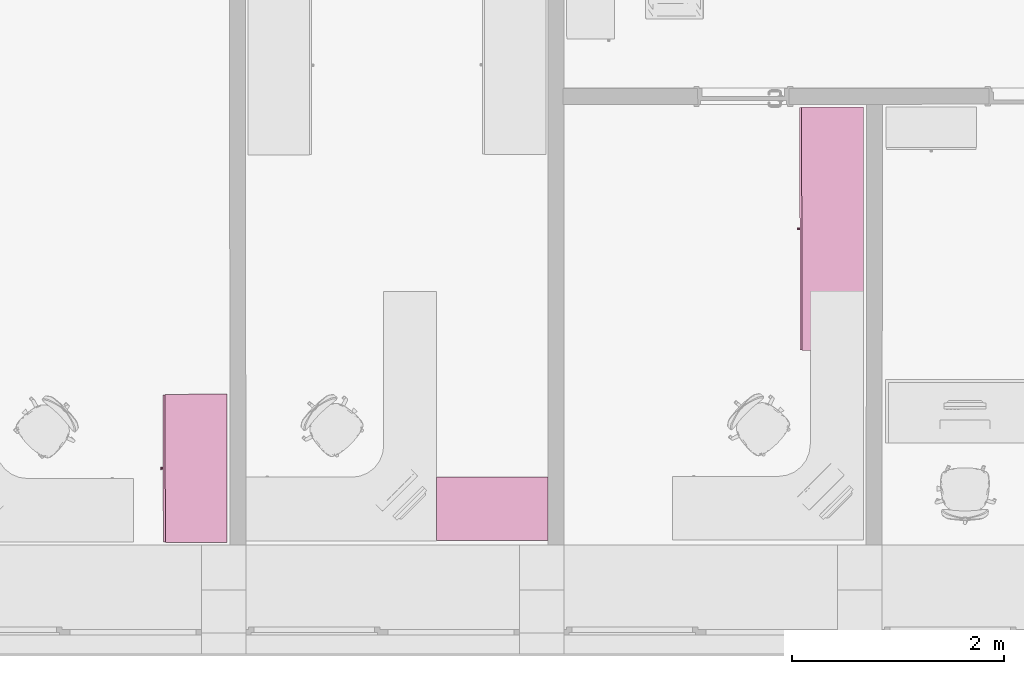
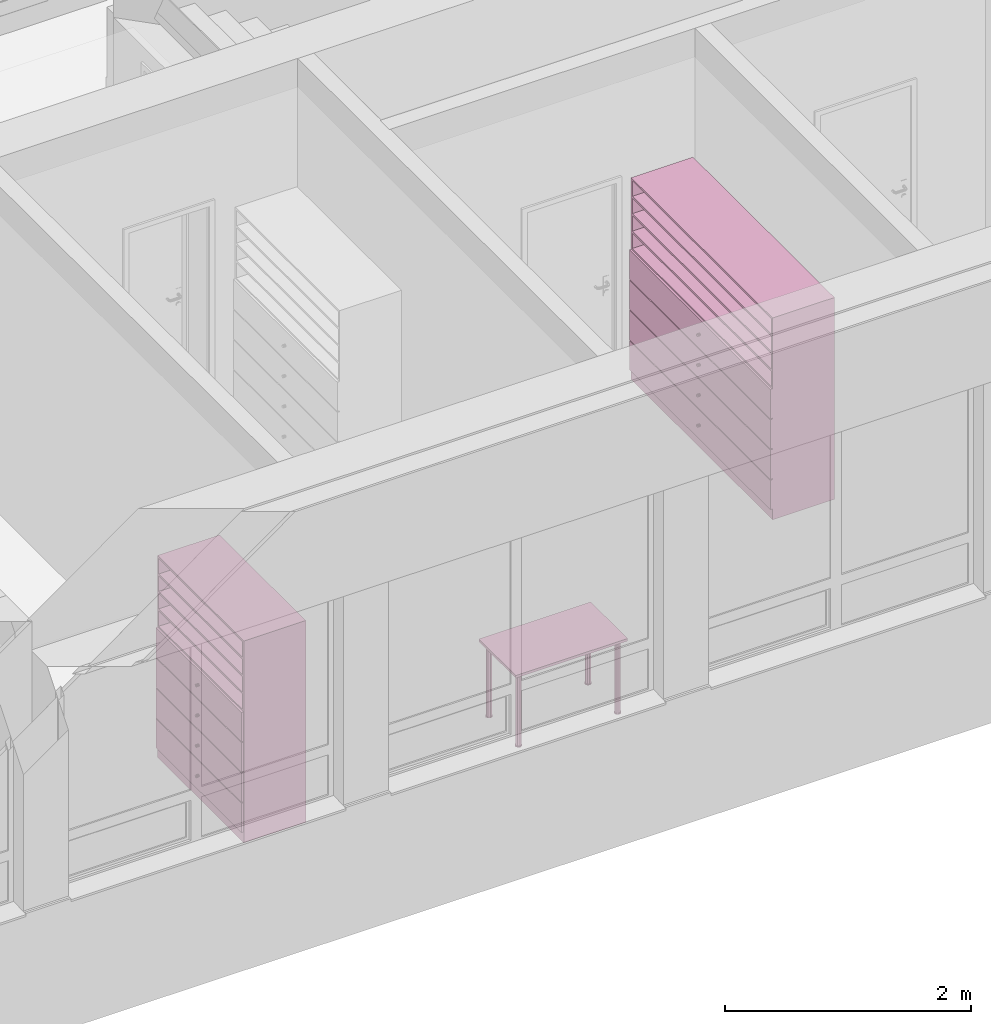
# One storey, part 173 of 194: 3 furnishings.
"""IFC2X3 building model written with IfcOpenShell, lengths in millimetres."""

import ifcopenshell
import ifcopenshell.guid

model = None  # the IFC model being written
_history = None  # IfcOwnerHistory: only IFC2X3 demands one
_inside = {}  # id of a spatial element -> (the spatial element, [elements in it])
_under = {}  # id of a project, library or spatial element -> (it, [spatial elements below it])
_declared = {}  # id of a project -> (the project, [libraries it declares])
_typed = {}  # id of a type object -> (the type object, [elements of that type])
_made_of = {}  # id of a material, layer set ... -> (it, [elements and type objects made of it])


def new_model(schema):
    """Start an empty IFC model of exactly this schema.

    Asked for "IFC4X3", IfcOpenShell would pick the latest addendum, in which some entities
    have other attributes; the version numbers below select the first issue.
    IFC2X3 requires an IfcOwnerHistory on every rooted entity: one is made here for all.
    """
    global model, _history
    if schema == "IFC4X3":
        model = ifcopenshell.file(schema_version=(4, 3, 0, 0))
    else:
        model = ifcopenshell.file(schema=schema)
    _inside.clear()
    _under.clear()
    _declared.clear()
    _typed.clear()
    _made_of.clear()
    _history = None
    if model.schema == "IFC2X3":
        org = make("IfcOrganization", Name="unknown")
        user = make(
            "IfcPersonAndOrganization",
            ThePerson=make("IfcPerson", FamilyName="unknown"),
            TheOrganization=org,
        )
        app = make(
            "IfcApplication",
            ApplicationDeveloper=org,
            Version="unknown",
            ApplicationFullName="unknown",
            ApplicationIdentifier="unknown",
        )
        _history = make(
            "IfcOwnerHistory",
            OwningUser=user,
            OwningApplication=app,
            ChangeAction="ADDED",
            CreationDate=0,
        )
    return model


def make(cls, **values):
    """One entity of the class cls with the attributes given. An attribute that is None is left unset."""
    return model.create_entity(
        cls, **{name: value for name, value in values.items() if value is not None}
    )


def entity(cls, *values):
    """Any entity or typed value of the class cls, its attributes in the order of the schema. None: left unset."""
    e = model.create_entity(cls)
    for i, value in enumerate(values):
        if value is not None:
            e[i] = value
    return e


def rooted(cls, **values):
    """An entity with a GlobalId (a new one), such as an element, a storey or a relation."""
    return make(cls, GlobalId=ifcopenshell.guid.new(), OwnerHistory=_history, **values)


def si_unit(unit_type, name, prefix=None):
    """IfcSIUnit, for example si_unit("LENGTHUNIT", "METRE", prefix="MILLI")."""
    return make("IfcSIUnit", UnitType=unit_type, Prefix=prefix, Name=name)


def converted_unit(unit_type, name, factor, base, dimensions=None, offset=None):
    """IfcConversionBasedUnit, such as the inch: factor (a typed value) times the base unit."""
    return make(
        "IfcConversionBasedUnit"
        if offset is None
        else "IfcConversionBasedUnitWithOffset",
        ConversionOffset=offset,
        Dimensions=None
        if dimensions is None
        else entity("IfcDimensionalExponents", *dimensions),
        UnitType=unit_type,
        Name=name,
        ConversionFactor=make(
            "IfcMeasureWithUnit", ValueComponent=factor, UnitComponent=base
        ),
    )


def derived_unit(unit_type, elements):
    """IfcDerivedUnit: a product of units, each with its exponent."""
    return make(
        "IfcDerivedUnit",
        Elements=[
            make("IfcDerivedUnitElement", Unit=unit, Exponent=power)
            for unit, power in elements
        ],
        UnitType=unit_type,
    )


def money_unit(currency):
    """IfcMonetaryUnit."""
    return make("IfcMonetaryUnit", Currency=currency)


def assignment(units):
    """IfcUnitAssignment: the units of a project."""
    return None if units is None else make("IfcUnitAssignment", Units=units)


def point(xyz):
    """IfcCartesianPoint."""
    return None if xyz is None else make("IfcCartesianPoint", Coordinates=xyz)


def direction(xyz):
    """IfcDirection."""
    return None if xyz is None else make("IfcDirection", DirectionRatios=xyz)


def frame(location, z_axis=None, x_axis=None):
    """IfcAxis2Placement3D, a coordinate frame: its origin and axes. An axis left out is left unset."""
    return make(
        "IfcAxis2Placement3D",
        Location=point(location),
        Axis=direction(z_axis),
        RefDirection=direction(x_axis),
    )


def origin_with_axes():
    """The frame at (0, 0, 0) with the z axis (0, 0, 1) and the x axis (1, 0, 0) written out."""
    return frame((0.0, 0.0, 0.0), z_axis=(0.0, 0.0, 1.0), x_axis=(1.0, 0.0, 0.0))


def place(relative_to, where):
    """IfcLocalPlacement: puts the frame where relative to a parent placement (None: the world)."""
    return make(
        "IfcLocalPlacement", PlacementRelTo=relative_to, RelativePlacement=where
    )


def context(
    kind, dimensions, precision=None, world=None, true_north=None, identifier=None
):
    """IfcGeometricRepresentationContext, for example the 3D "Model" context."""
    return make(
        "IfcGeometricRepresentationContext",
        ContextIdentifier=identifier,
        ContextType=kind,
        CoordinateSpaceDimension=dimensions,
        Precision=precision,
        WorldCoordinateSystem=world,
        TrueNorth=true_north,
    )


def subcontext(parent, identifier, kind, view, scale=None):
    """IfcGeometricRepresentationSubContext, for example "Body" below "Model"."""
    return make(
        "IfcGeometricRepresentationSubContext",
        ContextIdentifier=identifier,
        ContextType=kind,
        ParentContext=parent,
        TargetScale=scale,
        TargetView=view,
    )


def project(units=None, contexts=None):
    """IfcProject with its units and contexts."""
    return rooted(
        "IfcProject",
        Name="project",
        RepresentationContexts=contexts,
        UnitsInContext=assignment(units),
    )


def spatial(cls, under=None, at=None, **own):
    """A site, building, storey or space (cls), placed at a placement, below another one or the project."""
    s = rooted(cls, ObjectPlacement=at, **own)
    if under is not None:
        _under.setdefault(under.id(), (under, []))[1].append(s)
    return s


def faces_of(points, faces, orient=None, outer=None):
    """IfcFace entities. A face is a list of loops; a loop is a list of indices into points, from 0.

    orient and outer hold one flag for each loop. By default every Orientation is true, the
    first loop of a face is its IfcFaceOuterBound and the others are IfcFaceBound.
    """
    made = []
    for i, loops in enumerate(faces):
        bounds = []
        for j, loop in enumerate(loops):
            is_outer = j == 0 if outer is None else outer[i][j]
            bounds.append(
                make(
                    "IfcFaceOuterBound" if is_outer else "IfcFaceBound",
                    Bound=make("IfcPolyLoop", Polygon=[points[k] for k in loop]),
                    Orientation=True if orient is None else orient[i][j],
                )
            )
        made.append(make("IfcFace", Bounds=bounds))
    return made


def faceted_brep(points, faces, orient=None, outer=None, voids=None):
    """IfcFacetedBrep: a solid bounded by flat faces; with voids (closed shells), ...WithVoids."""
    shared = [point(p) for p in points]
    hull = make("IfcClosedShell", CfsFaces=faces_of(shared, faces, orient, outer))
    if voids is None:
        return make("IfcFacetedBrep", Outer=hull)
    return make(
        "IfcFacetedBrepWithVoids",
        Outer=hull,
        Voids=[
            make(cls, CfsFaces=faces_of(shared, fs, o, b)) for cls, fs, o, b in voids
        ],
    )


def shape(context_of_items, identifier, shape_type, items):
    """IfcShapeRepresentation: the items that make up one representation, for example the "Body"."""
    return make(
        "IfcShapeRepresentation",
        ContextOfItems=context_of_items,
        RepresentationIdentifier=identifier,
        RepresentationType=shape_type,
        Items=items,
    )


def made_of(thing, what):
    """Note that an element or type object is made of a material, layer set ...; save() writes the relation."""
    if what is not None:
        _made_of.setdefault(what.id(), (what, []))[1].append(thing)
    return thing


def type_object(cls, material=None, **own):
    """A type object (cls), such as IfcWallType, which elements share."""
    return made_of(rooted(cls, **own), material)


def element(
    cls,
    number,
    at=None,
    inside=None,
    cuts=None,
    type_object=None,
    material=None,
    context=None,
    identifier="Body",
    shape_type=None,
    held_by="IfcProductDefinitionShape",
    body=None,
    shapes=None,
    **own,
):
    """One element of the class cls, such as IfcWall. Its Tag is "e" and its number.

    at: its placement. inside: the storey or other place that contains it. cuts: it is an
    opening in that element (IfcRelVoidsElement). A single representation is given by context,
    identifier, shape_type and body (its items); several are given by shapes. held_by: the class
    of the entity that holds the representations. save() writes the other relations.
    """
    e = rooted(cls, Tag="e%d" % number, ObjectPlacement=at, **own)
    if body is not None:
        shapes = [shape(context, identifier, shape_type, body)]
    if shapes is not None:
        e.Representation = make(held_by, Representations=shapes)
    if inside is not None:
        _inside.setdefault(inside.id(), (inside, []))[1].append(e)
    if cuts is not None:
        rooted(
            "IfcRelVoidsElement", RelatingBuildingElement=cuts, RelatedOpeningElement=e
        )
    if type_object is not None:
        _typed.setdefault(type_object.id(), (type_object, []))[1].append(e)
    return made_of(e, material)


def aggregate(whole, parts):
    """IfcRelAggregates: a whole, such as a stair, and the parts it consists of."""
    return rooted("IfcRelAggregates", RelatingObject=whole, RelatedObjects=parts)


def save(model, path):
    """Write the relations noted so far, then the file.

    IfcRelAggregates (storeys below a building ...), IfcRelContainedInSpatialStructure (elements
    in a storey), IfcRelDefinesByType, IfcRelAssociatesMaterial and IfcRelDeclares: one each for
    every whole, place, type object, material and project.
    """
    for whole, parts in _under.values():
        aggregate(whole, parts)
    for where, things in _inside.values():
        rooted(
            "IfcRelContainedInSpatialStructure",
            RelatedElements=things,
            RelatingStructure=where,
        )
    for kind, things in _typed.values():
        rooted("IfcRelDefinesByType", RelatedObjects=things, RelatingType=kind)
    for what, things in _made_of.values():
        rooted("IfcRelAssociatesMaterial", RelatedObjects=things, RelatingMaterial=what)
    for by, libraries in _declared.values():
        rooted("IfcRelDeclares", RelatingContext=by, RelatedDefinitions=libraries)
    model.write(path)


model = new_model("IFC2X3")

# Units and contexts
model_context = context("Model", 3, precision=1e-05, world=origin_with_axes(), true_north=direction((0.0, 1.0)))
body_context = subcontext(model_context, "Body", "Model", "MODEL_VIEW")
ifc_project = project(units=[si_unit("LENGTHUNIT", "METRE", prefix="MILLI"), si_unit("AREAUNIT", "SQUARE_METRE"), si_unit("VOLUMEUNIT", "CUBIC_METRE"), converted_unit("PLANEANGLEUNIT", "DEGREE", entity("IfcPlaneAngleMeasure", 0.0174532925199), si_unit("PLANEANGLEUNIT", "RADIAN"), dimensions=[0, 0, 0, 0, 0, 0, 0]), si_unit("SOLIDANGLEUNIT", "STERADIAN"), money_unit("EUR"), converted_unit("TIMEUNIT", "Year", entity("IfcTimeMeasure", 31556926.0), si_unit("TIMEUNIT", "SECOND"), dimensions=[0, 0, 1, 0, 0, 0, 0]), si_unit("MASSUNIT", "GRAM", prefix="KILO"), si_unit("THERMODYNAMICTEMPERATUREUNIT", "DEGREE_CELSIUS"), si_unit("LUMINOUSINTENSITYUNIT", "LUMEN"), si_unit("ENERGYUNIT", "JOULE", prefix="MEGA"), derived_unit("THERMALCONDUCTANCEUNIT", [(si_unit("POWERUNIT", "WATT"), 1), (si_unit("LENGTHUNIT", "METRE"), -1), (si_unit("THERMODYNAMICTEMPERATUREUNIT", "KELVIN"), -1)]), derived_unit("SPECIFICHEATCAPACITYUNIT", [(si_unit("ENERGYUNIT", "JOULE"), 1), (si_unit("MASSUNIT", "GRAM", prefix="KILO"), -1), (si_unit("THERMODYNAMICTEMPERATUREUNIT", "KELVIN"), -1)]), derived_unit("MASSDENSITYUNIT", [(si_unit("MASSUNIT", "GRAM", prefix="KILO"), 1), (si_unit("VOLUMEUNIT", "CUBIC_METRE"), -1)])], contexts=[model_context])

# Site, building, storey
site_placement = place(None, origin_with_axes())
site = spatial("IfcSite", under=ifc_project, at=site_placement, Name="Site", CompositionType="ELEMENT")
building_placement = place(site_placement, origin_with_axes())
building = spatial("IfcBuilding", under=site, at=building_placement, Name="Building", CompositionType="ELEMENT")
storey_placement = place(building_placement, frame((0.0, 0.0, 3000.0), z_axis=(0.0, 0.0, 1.0), x_axis=(1.0, 0.0, 0.0)))
storey = spatial("IfcBuildingStorey", under=building, at=storey_placement, Name="2 KORRUS", CompositionType="ELEMENT", Elevation=3000.0)

# Furnishings
furnishing_element_type_1 = type_object("IfcFurnishingElementType", Name="Model Element 142")
furnishing_1_placement = place(storey_placement, frame((78378.0962993, 35205.5749896, 0.0), z_axis=(0.0, 0.0, 1.0), x_axis=(0.00064265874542, -0.999999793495, 0.0)))
element("IfcFurnishingElement", 1, at=furnishing_1_placement, inside=storey, type_object=furnishing_element_type_1, Name="FU - 001", context=body_context, shape_type="Brep", body=[
    faceted_brep([(-1400.0, 19.0, 0.0), (-1400.0, 600.391799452, 0.0), (0.0, 600.391799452, 0.0), (0.0, 19.0, 0.0), (-1400.0, 19.0, 100.0), (-1400.0, 600.391799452, 100.0), (0.0, 600.391799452, 100.0), (0.0, 19.0, 100.0)], [[[0, 1, 2, 3]], [[0, 4, 5, 1]], [[1, 5, 6, 2]], [[2, 6, 7, 3]], [[3, 7, 4, 0]], [[7, 6, 5, 4]]]),
    faceted_brep([(-19.0, 600.391799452, 119.0), (-19.0, 600.391799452, 1981.0), (-19.0, 581.391799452, 1981.0), (-19.0, 581.391799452, 119.0), (-1381.0, 600.391799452, 119.0), (-1381.0, 600.391799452, 1981.0), (-1381.0, 581.391799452, 1981.0), (-1381.0, 581.391799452, 119.0)], [[[0, 1, 2, 3]], [[4, 5, 1, 0]], [[1, 5, 6, 2]], [[3, 2, 6, 7]], [[0, 3, 7, 4]], [[7, 6, 5, 4]]]),
    faceted_brep([(-1400.0, 19.0, 100.0), (-1400.0, 600.391799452, 100.0), (-1381.0, 600.391799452, 100.0), (-1381.0, 19.0, 100.0), (-1400.0, 19.0, 2000.0), (-1400.0, 600.391799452, 2000.0), (-1381.0, 600.391799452, 2000.0), (-1381.0, 19.0, 2000.0)], [[[0, 1, 2, 3]], [[0, 4, 5, 1]], [[1, 5, 6, 2]], [[2, 6, 7, 3]], [[3, 7, 4, 0]], [[7, 6, 5, 4]]]),
    faceted_brep([(-19.0, 19.0, 100.0), (-19.0, 600.391799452, 100.0), (0.0, 600.391799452, 100.0), (0.0, 19.0, 100.0), (-19.0, 19.0, 2000.0), (-19.0, 600.391799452, 2000.0), (0.0, 600.391799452, 2000.0), (0.0, 19.0, 2000.0)], [[[0, 1, 2, 3]], [[0, 4, 5, 1]], [[1, 5, 6, 2]], [[2, 6, 7, 3]], [[3, 7, 4, 0]], [[7, 6, 5, 4]]]),
    faceted_brep([(-1381.0, 19.0, 100.0), (-1381.0, 600.391799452, 100.0), (-19.0, 600.391799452, 100.0), (-19.0, 19.0, 100.0), (-1381.0, 19.0, 119.0), (-1381.0, 600.391799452, 119.0), (-19.0, 600.391799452, 119.0), (-19.0, 19.0, 119.0)], [[[0, 1, 2, 3]], [[0, 4, 5, 1]], [[1, 5, 6, 2]], [[2, 6, 7, 3]], [[3, 7, 4, 0]], [[7, 6, 5, 4]]]),
    faceted_brep([(-1381.0, 19.0, 1981.0), (-1381.0, 600.391799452, 1981.0), (-19.0, 600.391799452, 1981.0), (-19.0, 19.0, 1981.0), (-1381.0, 19.0, 2000.0), (-1381.0, 600.391799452, 2000.0), (-19.0, 600.391799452, 2000.0), (-19.0, 19.0, 2000.0)], [[[0, 1, 2, 3]], [[0, 4, 5, 1]], [[1, 5, 6, 2]], [[2, 6, 7, 3]], [[3, 7, 4, 0]], [[7, 6, 5, 4]]]),
    faceted_brep([(-5.0, 19.0, 105.0), (-5.0, 0.0, 105.0), (-1395.0, 0.0, 105.0), (-1395.0, 19.0, 105.0), (-5.0, 19.0, 395.0), (-5.0, 0.0, 395.0), (-1395.0, 0.0, 395.0), (-1395.0, 19.0, 395.0)], [[[0, 1, 2, 3]], [[4, 5, 1, 0]], [[1, 5, 6, 2]], [[3, 2, 6, 7]], [[0, 3, 7, 4]], [[7, 6, 5, 4]]]),
    faceted_brep([(-710.392304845, 0.0, 244.0), (-712.0, 0.0, 250.0), (-710.392304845, 0.0, 256.0), (-706.0, 0.0, 260.392304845), (-700.0, 0.0, 262.0), (-694.0, 0.0, 260.392304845), (-689.607695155, 0.0, 256.0), (-688.0, 0.0, 250.0), (-689.607695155, 0.0, 244.0), (-694.0, 0.0, 239.607695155), (-700.0, 0.0, 238.0), (-706.0, 0.0, 239.607695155), (-710.392304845, -25.0, 244.0), (-712.0, -25.0, 250.0), (-710.392304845, -25.0, 256.0), (-706.0, -25.0, 260.392304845), (-700.0, -25.0, 262.0), (-694.0, -25.0, 260.392304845), (-689.607695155, -25.0, 256.0), (-688.0, -25.0, 250.0), (-689.607695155, -25.0, 244.0), (-694.0, -25.0, 239.607695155), (-700.0, -25.0, 238.0), (-706.0, -25.0, 239.607695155)], [[[0, 1, 2, 3, 4, 5, 6, 7, 8, 9, 10, 11]], [[0, 12, 13, 1]], [[1, 13, 14, 2]], [[2, 14, 15, 3]], [[3, 15, 16, 4]], [[4, 16, 17, 5]], [[5, 17, 18, 6]], [[6, 18, 19, 7]], [[7, 19, 20, 8]], [[8, 20, 21, 9]], [[9, 21, 22, 10]], [[10, 22, 23, 11]], [[11, 23, 12, 0]], [[12, 23, 22, 21, 20, 19, 18, 17, 16, 15, 14, 13]]]),
    faceted_brep([(-5.0, 19.0, 405.0), (-5.0, 0.0, 405.0), (-1395.0, 0.0, 405.0), (-1395.0, 19.0, 405.0), (-5.0, 19.0, 695.0), (-5.0, 0.0, 695.0), (-1395.0, 0.0, 695.0), (-1395.0, 19.0, 695.0)], [[[0, 1, 2, 3]], [[4, 5, 1, 0]], [[1, 5, 6, 2]], [[3, 2, 6, 7]], [[0, 3, 7, 4]], [[7, 6, 5, 4]]]),
    faceted_brep([(-710.392304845, 0.0, 544.0), (-712.0, 0.0, 550.0), (-710.392304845, 0.0, 556.0), (-706.0, 0.0, 560.392304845), (-700.0, 0.0, 562.0), (-694.0, 0.0, 560.392304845), (-689.607695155, 0.0, 556.0), (-688.0, 0.0, 550.0), (-689.607695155, 0.0, 544.0), (-694.0, 0.0, 539.607695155), (-700.0, 0.0, 538.0), (-706.0, 0.0, 539.607695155), (-710.392304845, -25.0, 544.0), (-712.0, -25.0, 550.0), (-710.392304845, -25.0, 556.0), (-706.0, -25.0, 560.392304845), (-700.0, -25.0, 562.0), (-694.0, -25.0, 560.392304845), (-689.607695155, -25.0, 556.0), (-688.0, -25.0, 550.0), (-689.607695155, -25.0, 544.0), (-694.0, -25.0, 539.607695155), (-700.0, -25.0, 538.0), (-706.0, -25.0, 539.607695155)], [[[0, 1, 2, 3, 4, 5, 6, 7, 8, 9, 10, 11]], [[0, 12, 13, 1]], [[1, 13, 14, 2]], [[2, 14, 15, 3]], [[3, 15, 16, 4]], [[4, 16, 17, 5]], [[5, 17, 18, 6]], [[6, 18, 19, 7]], [[7, 19, 20, 8]], [[8, 20, 21, 9]], [[9, 21, 22, 10]], [[10, 22, 23, 11]], [[11, 23, 12, 0]], [[12, 23, 22, 21, 20, 19, 18, 17, 16, 15, 14, 13]]]),
    faceted_brep([(-5.0, 19.0, 705.0), (-5.0, 0.0, 705.0), (-1395.0, 0.0, 705.0), (-1395.0, 19.0, 705.0), (-5.0, 19.0, 995.0), (-5.0, 0.0, 995.0), (-1395.0, 0.0, 995.0), (-1395.0, 19.0, 995.0)], [[[0, 1, 2, 3]], [[4, 5, 1, 0]], [[1, 5, 6, 2]], [[3, 2, 6, 7]], [[0, 3, 7, 4]], [[7, 6, 5, 4]]]),
    faceted_brep([(-710.392304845, 0.0, 844.0), (-712.0, 0.0, 850.0), (-710.392304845, 0.0, 856.0), (-706.0, 0.0, 860.392304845), (-700.0, 0.0, 862.0), (-694.0, 0.0, 860.392304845), (-689.607695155, 0.0, 856.0), (-688.0, 0.0, 850.0), (-689.607695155, 0.0, 844.0), (-694.0, 0.0, 839.607695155), (-700.0, 0.0, 838.0), (-706.0, 0.0, 839.607695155), (-710.392304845, -25.0, 844.0), (-712.0, -25.0, 850.0), (-710.392304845, -25.0, 856.0), (-706.0, -25.0, 860.392304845), (-700.0, -25.0, 862.0), (-694.0, -25.0, 860.392304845), (-689.607695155, -25.0, 856.0), (-688.0, -25.0, 850.0), (-689.607695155, -25.0, 844.0), (-694.0, -25.0, 839.607695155), (-700.0, -25.0, 838.0), (-706.0, -25.0, 839.607695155)], [[[0, 1, 2, 3, 4, 5, 6, 7, 8, 9, 10, 11]], [[0, 12, 13, 1]], [[1, 13, 14, 2]], [[2, 14, 15, 3]], [[3, 15, 16, 4]], [[4, 16, 17, 5]], [[5, 17, 18, 6]], [[6, 18, 19, 7]], [[7, 19, 20, 8]], [[8, 20, 21, 9]], [[9, 21, 22, 10]], [[10, 22, 23, 11]], [[11, 23, 12, 0]], [[12, 23, 22, 21, 20, 19, 18, 17, 16, 15, 14, 13]]]),
    faceted_brep([(-5.0, 19.0, 1005.0), (-5.0, 0.0, 1005.0), (-1395.0, 0.0, 1005.0), (-1395.0, 19.0, 1005.0), (-5.0, 19.0, 1295.0), (-5.0, 0.0, 1295.0), (-1395.0, 0.0, 1295.0), (-1395.0, 19.0, 1295.0)], [[[0, 1, 2, 3]], [[4, 5, 1, 0]], [[1, 5, 6, 2]], [[3, 2, 6, 7]], [[0, 3, 7, 4]], [[7, 6, 5, 4]]]),
    faceted_brep([(-710.392304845, 0.0, 1144.0), (-712.0, 0.0, 1150.0), (-710.392304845, 0.0, 1156.0), (-706.0, 0.0, 1160.39230485), (-700.0, 0.0, 1162.0), (-694.0, 0.0, 1160.39230485), (-689.607695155, 0.0, 1156.0), (-688.0, 0.0, 1150.0), (-689.607695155, 0.0, 1144.0), (-694.0, 0.0, 1139.60769515), (-700.0, 0.0, 1138.0), (-706.0, 0.0, 1139.60769515), (-710.392304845, -25.0, 1144.0), (-712.0, -25.0, 1150.0), (-710.392304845, -25.0, 1156.0), (-706.0, -25.0, 1160.39230485), (-700.0, -25.0, 1162.0), (-694.0, -25.0, 1160.39230485), (-689.607695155, -25.0, 1156.0), (-688.0, -25.0, 1150.0), (-689.607695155, -25.0, 1144.0), (-694.0, -25.0, 1139.60769515), (-700.0, -25.0, 1138.0), (-706.0, -25.0, 1139.60769515)], [[[0, 1, 2, 3, 4, 5, 6, 7, 8, 9, 10, 11]], [[0, 12, 13, 1]], [[1, 13, 14, 2]], [[2, 14, 15, 3]], [[3, 15, 16, 4]], [[4, 16, 17, 5]], [[5, 17, 18, 6]], [[6, 18, 19, 7]], [[7, 19, 20, 8]], [[8, 20, 21, 9]], [[9, 21, 22, 10]], [[10, 22, 23, 11]], [[11, 23, 12, 0]], [[12, 23, 22, 21, 20, 19, 18, 17, 16, 15, 14, 13]]]),
    faceted_brep([(-19.0, 19.0, 390.5), (-19.0, 19.0, 409.5), (-1381.0, 19.0, 409.5), (-1381.0, 19.0, 390.5), (-19.0, 581.391799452, 390.5), (-19.0, 581.391799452, 409.5), (-1381.0, 581.391799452, 409.5), (-1381.0, 581.391799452, 390.5)], [[[0, 1, 2, 3]], [[4, 5, 1, 0]], [[1, 5, 6, 2]], [[3, 2, 6, 7]], [[0, 3, 7, 4]], [[7, 6, 5, 4]]]),
    faceted_brep([(-19.0, 19.0, 690.5), (-19.0, 19.0, 709.5), (-1381.0, 19.0, 709.5), (-1381.0, 19.0, 690.5), (-19.0, 581.391799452, 690.5), (-19.0, 581.391799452, 709.5), (-1381.0, 581.391799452, 709.5), (-1381.0, 581.391799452, 690.5)], [[[0, 1, 2, 3]], [[4, 5, 1, 0]], [[1, 5, 6, 2]], [[3, 2, 6, 7]], [[0, 3, 7, 4]], [[7, 6, 5, 4]]]),
    faceted_brep([(-19.0, 19.0, 990.5), (-19.0, 19.0, 1009.5), (-1381.0, 19.0, 1009.5), (-1381.0, 19.0, 990.5), (-19.0, 581.391799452, 990.5), (-19.0, 581.391799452, 1009.5), (-1381.0, 581.391799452, 1009.5), (-1381.0, 581.391799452, 990.5)], [[[0, 1, 2, 3]], [[4, 5, 1, 0]], [[1, 5, 6, 2]], [[3, 2, 6, 7]], [[0, 3, 7, 4]], [[7, 6, 5, 4]]]),
    faceted_brep([(-19.0, 19.0, 1290.5), (-19.0, 19.0, 1309.5), (-1381.0, 19.0, 1309.5), (-1381.0, 19.0, 1290.5), (-19.0, 581.391799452, 1290.5), (-19.0, 581.391799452, 1309.5), (-1381.0, 581.391799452, 1309.5), (-1381.0, 581.391799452, 1290.5)], [[[0, 1, 2, 3]], [[4, 5, 1, 0]], [[1, 5, 6, 2]], [[3, 2, 6, 7]], [[0, 3, 7, 4]], [[7, 6, 5, 4]]]),
    faceted_brep([(-1381.0, 19.0, 1463.125), (-1381.0, 581.391799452, 1463.125), (-19.0, 581.391799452, 1463.125), (-19.0, 19.0, 1463.125), (-1381.0, 19.0, 1482.125), (-1381.0, 581.391799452, 1482.125), (-19.0, 581.391799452, 1482.125), (-19.0, 19.0, 1482.125)], [[[0, 1, 2, 3]], [[0, 4, 5, 1]], [[1, 5, 6, 2]], [[2, 6, 7, 3]], [[3, 7, 4, 0]], [[7, 6, 5, 4]]]),
    faceted_brep([(-1381.0, 19.0, 1635.75), (-1381.0, 581.391799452, 1635.75), (-19.0, 581.391799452, 1635.75), (-19.0, 19.0, 1635.75), (-1381.0, 19.0, 1654.75), (-1381.0, 581.391799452, 1654.75), (-19.0, 581.391799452, 1654.75), (-19.0, 19.0, 1654.75)], [[[0, 1, 2, 3]], [[0, 4, 5, 1]], [[1, 5, 6, 2]], [[2, 6, 7, 3]], [[3, 7, 4, 0]], [[7, 6, 5, 4]]]),
    faceted_brep([(-1381.0, 19.0, 1808.375), (-1381.0, 581.391799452, 1808.375), (-19.0, 581.391799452, 1808.375), (-19.0, 19.0, 1808.375), (-1381.0, 19.0, 1827.375), (-1381.0, 581.391799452, 1827.375), (-19.0, 581.391799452, 1827.375), (-19.0, 19.0, 1827.375)], [[[0, 1, 2, 3]], [[0, 4, 5, 1]], [[1, 5, 6, 2]], [[2, 6, 7, 3]], [[3, 7, 4, 0]], [[7, 6, 5, 4]]]),
])
furnishing_element_type_2 = type_object("IfcFurnishingElementType", Name="Model Element 134")
furnishing_2_placement = place(storey_placement, frame((84382.5735354, 37018.7597394, 0.0), z_axis=(0.0, 0.0, 1.0), x_axis=(0.00064265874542, -0.999999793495, 0.0)))
element("IfcFurnishingElement", 2, at=furnishing_2_placement, inside=storey, type_object=furnishing_element_type_2, Name="FU - 001", context=body_context, shape_type="Brep", body=[
    faceted_brep([(-2295.02577432, 19.0, 0.0), (-2295.02577432, 599.853751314, 0.0), (0.0, 599.853751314, 0.0), (0.0, 19.0, 0.0), (-2295.02577432, 19.0, 100.0), (-2295.02577432, 599.853751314, 100.0), (0.0, 599.853751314, 100.0), (0.0, 19.0, 100.0)], [[[0, 1, 2, 3]], [[0, 4, 5, 1]], [[1, 5, 6, 2]], [[2, 6, 7, 3]], [[3, 7, 4, 0]], [[7, 6, 5, 4]]]),
    faceted_brep([(-19.0, 599.853751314, 119.0), (-19.0, 599.853751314, 1981.0), (-19.0, 580.853751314, 1981.0), (-19.0, 580.853751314, 119.0), (-2276.02577432, 599.853751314, 119.0), (-2276.02577432, 599.853751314, 1981.0), (-2276.02577432, 580.853751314, 1981.0), (-2276.02577432, 580.853751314, 119.0)], [[[0, 1, 2, 3]], [[4, 5, 1, 0]], [[1, 5, 6, 2]], [[3, 2, 6, 7]], [[0, 3, 7, 4]], [[7, 6, 5, 4]]]),
    faceted_brep([(-2295.02577432, 19.0, 100.0), (-2295.02577432, 599.853751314, 100.0), (-2276.02577432, 599.853751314, 100.0), (-2276.02577432, 19.0, 100.0), (-2295.02577432, 19.0, 2000.0), (-2295.02577432, 599.853751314, 2000.0), (-2276.02577432, 599.853751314, 2000.0), (-2276.02577432, 19.0, 2000.0)], [[[0, 1, 2, 3]], [[0, 4, 5, 1]], [[1, 5, 6, 2]], [[2, 6, 7, 3]], [[3, 7, 4, 0]], [[7, 6, 5, 4]]]),
    faceted_brep([(-19.0, 19.0, 100.0), (-19.0, 599.853751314, 100.0), (0.0, 599.853751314, 100.0), (0.0, 19.0, 100.0), (-19.0, 19.0, 2000.0), (-19.0, 599.853751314, 2000.0), (0.0, 599.853751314, 2000.0), (0.0, 19.0, 2000.0)], [[[0, 1, 2, 3]], [[0, 4, 5, 1]], [[1, 5, 6, 2]], [[2, 6, 7, 3]], [[3, 7, 4, 0]], [[7, 6, 5, 4]]]),
    faceted_brep([(-2276.02577432, 19.0, 100.0), (-2276.02577432, 599.853751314, 100.0), (-19.0, 599.853751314, 100.0), (-19.0, 19.0, 100.0), (-2276.02577432, 19.0, 119.0), (-2276.02577432, 599.853751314, 119.0), (-19.0, 599.853751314, 119.0), (-19.0, 19.0, 119.0)], [[[0, 1, 2, 3]], [[0, 4, 5, 1]], [[1, 5, 6, 2]], [[2, 6, 7, 3]], [[3, 7, 4, 0]], [[7, 6, 5, 4]]]),
    faceted_brep([(-2276.02577432, 19.0, 1981.0), (-2276.02577432, 599.853751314, 1981.0), (-19.0, 599.853751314, 1981.0), (-19.0, 19.0, 1981.0), (-2276.02577432, 19.0, 2000.0), (-2276.02577432, 599.853751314, 2000.0), (-19.0, 599.853751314, 2000.0), (-19.0, 19.0, 2000.0)], [[[0, 1, 2, 3]], [[0, 4, 5, 1]], [[1, 5, 6, 2]], [[2, 6, 7, 3]], [[3, 7, 4, 0]], [[7, 6, 5, 4]]]),
    faceted_brep([(-5.0, 19.0, 105.0), (-5.0, 0.0, 105.0), (-2290.02577432, 0.0, 105.0), (-2290.02577432, 19.0, 105.0), (-5.0, 19.0, 395.0), (-5.0, 0.0, 395.0), (-2290.02577432, 0.0, 395.0), (-2290.02577432, 19.0, 395.0)], [[[0, 1, 2, 3]], [[4, 5, 1, 0]], [[1, 5, 6, 2]], [[3, 2, 6, 7]], [[0, 3, 7, 4]], [[7, 6, 5, 4]]]),
    faceted_brep([(-1157.90519201, 0.0, 244.0), (-1159.51288716, 0.0, 250.0), (-1157.90519201, 0.0, 256.0), (-1153.51288716, 0.0, 260.392304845), (-1147.51288716, 0.0, 262.0), (-1141.51288716, 0.0, 260.392304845), (-1137.12058232, 0.0, 256.0), (-1135.51288716, 0.0, 250.0), (-1137.12058232, 0.0, 244.0), (-1141.51288716, 0.0, 239.607695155), (-1147.51288716, 0.0, 238.0), (-1153.51288716, 0.0, 239.607695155), (-1157.90519201, -25.0, 244.0), (-1159.51288716, -25.0, 250.0), (-1157.90519201, -25.0, 256.0), (-1153.51288716, -25.0, 260.392304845), (-1147.51288716, -25.0, 262.0), (-1141.51288716, -25.0, 260.392304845), (-1137.12058232, -25.0, 256.0), (-1135.51288716, -25.0, 250.0), (-1137.12058232, -25.0, 244.0), (-1141.51288716, -25.0, 239.607695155), (-1147.51288716, -25.0, 238.0), (-1153.51288716, -25.0, 239.607695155)], [[[0, 1, 2, 3, 4, 5, 6, 7, 8, 9, 10, 11]], [[0, 12, 13, 1]], [[1, 13, 14, 2]], [[2, 14, 15, 3]], [[3, 15, 16, 4]], [[4, 16, 17, 5]], [[5, 17, 18, 6]], [[6, 18, 19, 7]], [[7, 19, 20, 8]], [[8, 20, 21, 9]], [[9, 21, 22, 10]], [[10, 22, 23, 11]], [[11, 23, 12, 0]], [[12, 23, 22, 21, 20, 19, 18, 17, 16, 15, 14, 13]]]),
    faceted_brep([(-5.0, 19.0, 405.0), (-5.0, 0.0, 405.0), (-2290.02577432, 0.0, 405.0), (-2290.02577432, 19.0, 405.0), (-5.0, 19.0, 695.0), (-5.0, 0.0, 695.0), (-2290.02577432, 0.0, 695.0), (-2290.02577432, 19.0, 695.0)], [[[0, 1, 2, 3]], [[4, 5, 1, 0]], [[1, 5, 6, 2]], [[3, 2, 6, 7]], [[0, 3, 7, 4]], [[7, 6, 5, 4]]]),
    faceted_brep([(-1157.90519201, 0.0, 544.0), (-1159.51288716, 0.0, 550.0), (-1157.90519201, 0.0, 556.0), (-1153.51288716, 0.0, 560.392304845), (-1147.51288716, 0.0, 562.0), (-1141.51288716, 0.0, 560.392304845), (-1137.12058232, 0.0, 556.0), (-1135.51288716, 0.0, 550.0), (-1137.12058232, 0.0, 544.0), (-1141.51288716, 0.0, 539.607695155), (-1147.51288716, 0.0, 538.0), (-1153.51288716, 0.0, 539.607695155), (-1157.90519201, -25.0, 544.0), (-1159.51288716, -25.0, 550.0), (-1157.90519201, -25.0, 556.0), (-1153.51288716, -25.0, 560.392304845), (-1147.51288716, -25.0, 562.0), (-1141.51288716, -25.0, 560.392304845), (-1137.12058232, -25.0, 556.0), (-1135.51288716, -25.0, 550.0), (-1137.12058232, -25.0, 544.0), (-1141.51288716, -25.0, 539.607695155), (-1147.51288716, -25.0, 538.0), (-1153.51288716, -25.0, 539.607695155)], [[[0, 1, 2, 3, 4, 5, 6, 7, 8, 9, 10, 11]], [[0, 12, 13, 1]], [[1, 13, 14, 2]], [[2, 14, 15, 3]], [[3, 15, 16, 4]], [[4, 16, 17, 5]], [[5, 17, 18, 6]], [[6, 18, 19, 7]], [[7, 19, 20, 8]], [[8, 20, 21, 9]], [[9, 21, 22, 10]], [[10, 22, 23, 11]], [[11, 23, 12, 0]], [[12, 23, 22, 21, 20, 19, 18, 17, 16, 15, 14, 13]]]),
    faceted_brep([(-5.0, 19.0, 705.0), (-5.0, 0.0, 705.0), (-2290.02577432, 0.0, 705.0), (-2290.02577432, 19.0, 705.0), (-5.0, 19.0, 995.0), (-5.0, 0.0, 995.0), (-2290.02577432, 0.0, 995.0), (-2290.02577432, 19.0, 995.0)], [[[0, 1, 2, 3]], [[4, 5, 1, 0]], [[1, 5, 6, 2]], [[3, 2, 6, 7]], [[0, 3, 7, 4]], [[7, 6, 5, 4]]]),
    faceted_brep([(-1157.90519201, 0.0, 844.0), (-1159.51288716, 0.0, 850.0), (-1157.90519201, 0.0, 856.0), (-1153.51288716, 0.0, 860.392304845), (-1147.51288716, 0.0, 862.0), (-1141.51288716, 0.0, 860.392304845), (-1137.12058232, 0.0, 856.0), (-1135.51288716, 0.0, 850.0), (-1137.12058232, 0.0, 844.0), (-1141.51288716, 0.0, 839.607695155), (-1147.51288716, 0.0, 838.0), (-1153.51288716, 0.0, 839.607695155), (-1157.90519201, -25.0, 844.0), (-1159.51288716, -25.0, 850.0), (-1157.90519201, -25.0, 856.0), (-1153.51288716, -25.0, 860.392304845), (-1147.51288716, -25.0, 862.0), (-1141.51288716, -25.0, 860.392304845), (-1137.12058232, -25.0, 856.0), (-1135.51288716, -25.0, 850.0), (-1137.12058232, -25.0, 844.0), (-1141.51288716, -25.0, 839.607695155), (-1147.51288716, -25.0, 838.0), (-1153.51288716, -25.0, 839.607695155)], [[[0, 1, 2, 3, 4, 5, 6, 7, 8, 9, 10, 11]], [[0, 12, 13, 1]], [[1, 13, 14, 2]], [[2, 14, 15, 3]], [[3, 15, 16, 4]], [[4, 16, 17, 5]], [[5, 17, 18, 6]], [[6, 18, 19, 7]], [[7, 19, 20, 8]], [[8, 20, 21, 9]], [[9, 21, 22, 10]], [[10, 22, 23, 11]], [[11, 23, 12, 0]], [[12, 23, 22, 21, 20, 19, 18, 17, 16, 15, 14, 13]]]),
    faceted_brep([(-5.0, 19.0, 1005.0), (-5.0, 0.0, 1005.0), (-2290.02577432, 0.0, 1005.0), (-2290.02577432, 19.0, 1005.0), (-5.0, 19.0, 1295.0), (-5.0, 0.0, 1295.0), (-2290.02577432, 0.0, 1295.0), (-2290.02577432, 19.0, 1295.0)], [[[0, 1, 2, 3]], [[4, 5, 1, 0]], [[1, 5, 6, 2]], [[3, 2, 6, 7]], [[0, 3, 7, 4]], [[7, 6, 5, 4]]]),
    faceted_brep([(-1157.90519201, 0.0, 1144.0), (-1159.51288716, 0.0, 1150.0), (-1157.90519201, 0.0, 1156.0), (-1153.51288716, 0.0, 1160.39230485), (-1147.51288716, 0.0, 1162.0), (-1141.51288716, 0.0, 1160.39230485), (-1137.12058232, 0.0, 1156.0), (-1135.51288716, 0.0, 1150.0), (-1137.12058232, 0.0, 1144.0), (-1141.51288716, 0.0, 1139.60769515), (-1147.51288716, 0.0, 1138.0), (-1153.51288716, 0.0, 1139.60769515), (-1157.90519201, -25.0, 1144.0), (-1159.51288716, -25.0, 1150.0), (-1157.90519201, -25.0, 1156.0), (-1153.51288716, -25.0, 1160.39230485), (-1147.51288716, -25.0, 1162.0), (-1141.51288716, -25.0, 1160.39230485), (-1137.12058232, -25.0, 1156.0), (-1135.51288716, -25.0, 1150.0), (-1137.12058232, -25.0, 1144.0), (-1141.51288716, -25.0, 1139.60769515), (-1147.51288716, -25.0, 1138.0), (-1153.51288716, -25.0, 1139.60769515)], [[[0, 1, 2, 3, 4, 5, 6, 7, 8, 9, 10, 11]], [[0, 12, 13, 1]], [[1, 13, 14, 2]], [[2, 14, 15, 3]], [[3, 15, 16, 4]], [[4, 16, 17, 5]], [[5, 17, 18, 6]], [[6, 18, 19, 7]], [[7, 19, 20, 8]], [[8, 20, 21, 9]], [[9, 21, 22, 10]], [[10, 22, 23, 11]], [[11, 23, 12, 0]], [[12, 23, 22, 21, 20, 19, 18, 17, 16, 15, 14, 13]]]),
    faceted_brep([(-19.0, 19.0, 390.5), (-19.0, 19.0, 409.5), (-2276.02577432, 19.0, 409.5), (-2276.02577432, 19.0, 390.5), (-19.0, 580.853751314, 390.5), (-19.0, 580.853751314, 409.5), (-2276.02577432, 580.853751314, 409.5), (-2276.02577432, 580.853751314, 390.5)], [[[0, 1, 2, 3]], [[4, 5, 1, 0]], [[1, 5, 6, 2]], [[3, 2, 6, 7]], [[0, 3, 7, 4]], [[7, 6, 5, 4]]]),
    faceted_brep([(-19.0, 19.0, 690.5), (-19.0, 19.0, 709.5), (-2276.02577432, 19.0, 709.5), (-2276.02577432, 19.0, 690.5), (-19.0, 580.853751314, 690.5), (-19.0, 580.853751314, 709.5), (-2276.02577432, 580.853751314, 709.5), (-2276.02577432, 580.853751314, 690.5)], [[[0, 1, 2, 3]], [[4, 5, 1, 0]], [[1, 5, 6, 2]], [[3, 2, 6, 7]], [[0, 3, 7, 4]], [[7, 6, 5, 4]]]),
    faceted_brep([(-19.0, 19.0, 990.5), (-19.0, 19.0, 1009.5), (-2276.02577432, 19.0, 1009.5), (-2276.02577432, 19.0, 990.5), (-19.0, 580.853751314, 990.5), (-19.0, 580.853751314, 1009.5), (-2276.02577432, 580.853751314, 1009.5), (-2276.02577432, 580.853751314, 990.5)], [[[0, 1, 2, 3]], [[4, 5, 1, 0]], [[1, 5, 6, 2]], [[3, 2, 6, 7]], [[0, 3, 7, 4]], [[7, 6, 5, 4]]]),
    faceted_brep([(-19.0, 19.0, 1290.5), (-19.0, 19.0, 1309.5), (-2276.02577432, 19.0, 1309.5), (-2276.02577432, 19.0, 1290.5), (-19.0, 580.853751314, 1290.5), (-19.0, 580.853751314, 1309.5), (-2276.02577432, 580.853751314, 1309.5), (-2276.02577432, 580.853751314, 1290.5)], [[[0, 1, 2, 3]], [[4, 5, 1, 0]], [[1, 5, 6, 2]], [[3, 2, 6, 7]], [[0, 3, 7, 4]], [[7, 6, 5, 4]]]),
    faceted_brep([(-2276.02577432, 19.0, 1463.125), (-2276.02577432, 580.853751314, 1463.125), (-19.0, 580.853751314, 1463.125), (-19.0, 19.0, 1463.125), (-2276.02577432, 19.0, 1482.125), (-2276.02577432, 580.853751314, 1482.125), (-19.0, 580.853751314, 1482.125), (-19.0, 19.0, 1482.125)], [[[0, 1, 2, 3]], [[0, 4, 5, 1]], [[1, 5, 6, 2]], [[2, 6, 7, 3]], [[3, 7, 4, 0]], [[7, 6, 5, 4]]]),
    faceted_brep([(-2276.02577432, 19.0, 1635.75), (-2276.02577432, 580.853751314, 1635.75), (-19.0, 580.853751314, 1635.75), (-19.0, 19.0, 1635.75), (-2276.02577432, 19.0, 1654.75), (-2276.02577432, 580.853751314, 1654.75), (-19.0, 580.853751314, 1654.75), (-19.0, 19.0, 1654.75)], [[[0, 1, 2, 3]], [[0, 4, 5, 1]], [[1, 5, 6, 2]], [[2, 6, 7, 3]], [[3, 7, 4, 0]], [[7, 6, 5, 4]]]),
    faceted_brep([(-2276.02577432, 19.0, 1808.375), (-2276.02577432, 580.853751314, 1808.375), (-19.0, 580.853751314, 1808.375), (-19.0, 19.0, 1808.375), (-2276.02577432, 19.0, 1827.375), (-2276.02577432, 580.853751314, 1827.375), (-19.0, 580.853751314, 1827.375), (-19.0, 19.0, 1827.375)], [[[0, 1, 2, 3]], [[0, 4, 5, 1]], [[1, 5, 6, 2]], [[2, 6, 7, 3]], [[3, 7, 4, 0]], [[7, 6, 5, 4]]]),
])
furnishing_element_type_3 = type_object("IfcFurnishingElementType", Name="Model Element 128")
furnishing_3_placement = place(storey_placement, frame((80957.3203497, 35224.5123251, 0.0), z_axis=(0.0, 0.0, 1.0), x_axis=(1.0, 0.0, 0.0)))
element("IfcFurnishingElement", 3, at=furnishing_3_placement, inside=storey, type_object=furnishing_element_type_3, Name="FU - 007", context=body_context, shape_type="Brep", body=[
    faceted_brep([(0.0, 0.0, 725.0), (1049.5893992, 0.0, 725.0), (1049.5893992, 0.0, 750.0), (0.0, 0.0, 750.0), (0.0, 598.705627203, 725.0), (1049.5893992, 598.705627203, 725.0), (1049.5893992, 598.705627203, 750.0), (0.0, 598.705627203, 750.0)], [[[0, 1, 2, 3]], [[0, 4, 5, 1]], [[1, 5, 6, 2]], [[3, 2, 6, 7]], [[4, 0, 3, 7]], [[5, 4, 7, 6]]]),
    faceted_brep([(77.6776695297, 77.6776695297, 10.0), (85.0, 60.0, 10.0), (77.6776695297, 42.3223304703, 10.0), (60.0, 35.0, 10.0), (42.3223304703, 42.3223304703, 10.0), (35.0, 60.0, 10.0), (42.3223304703, 77.6776695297, 10.0), (60.0, 85.0, 10.0), (77.6776695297, 77.6776695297, 725.0), (85.0, 60.0, 725.0), (77.6776695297, 42.3223304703, 725.0), (60.0, 35.0, 725.0), (42.3223304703, 42.3223304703, 725.0), (35.0, 60.0, 725.0), (42.3223304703, 77.6776695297, 725.0), (60.0, 85.0, 725.0)], [[[0, 1, 2, 3, 4, 5, 6, 7]], [[1, 0, 8, 9]], [[2, 1, 9, 10]], [[3, 2, 10, 11]], [[4, 3, 11, 12]], [[5, 4, 12, 13]], [[6, 5, 13, 14]], [[7, 6, 14, 15]], [[0, 7, 15, 8]], [[8, 15, 14, 13, 12, 11, 10, 9]]]),
    faceted_brep([(81.2132034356, 81.2132034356, 0.0), (90.0, 60.0, 0.0), (81.2132034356, 38.7867965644, 0.0), (60.0, 30.0, 0.0), (38.7867965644, 38.7867965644, 0.0), (30.0, 60.0, 0.0), (38.7867965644, 81.2132034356, 0.0), (60.0, 90.0, 0.0), (81.2132034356, 81.2132034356, 10.0), (90.0, 60.0, 10.0), (81.2132034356, 38.7867965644, 10.0), (60.0, 30.0, 10.0), (38.7867965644, 38.7867965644, 10.0), (30.0, 60.0, 10.0), (38.7867965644, 81.2132034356, 10.0), (60.0, 90.0, 10.0)], [[[0, 1, 2, 3, 4, 5, 6, 7]], [[1, 0, 8, 9]], [[2, 1, 9, 10]], [[3, 2, 10, 11]], [[4, 3, 11, 12]], [[5, 4, 12, 13]], [[6, 5, 13, 14]], [[7, 6, 14, 15]], [[0, 7, 15, 8]], [[8, 15, 14, 13, 12, 11, 10, 9]]]),
    faceted_brep([(77.6776695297, 556.383296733, 10.0), (85.0, 538.705627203, 10.0), (77.6776695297, 521.027957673, 10.0), (60.0, 513.705627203, 10.0), (42.3223304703, 521.027957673, 10.0), (35.0, 538.705627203, 10.0), (42.3223304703, 556.383296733, 10.0), (60.0, 563.705627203, 10.0), (77.6776695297, 556.383296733, 725.0), (85.0, 538.705627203, 725.0), (77.6776695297, 521.027957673, 725.0), (60.0, 513.705627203, 725.0), (42.3223304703, 521.027957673, 725.0), (35.0, 538.705627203, 725.0), (42.3223304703, 556.383296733, 725.0), (60.0, 563.705627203, 725.0)], [[[0, 1, 2, 3, 4, 5, 6, 7]], [[1, 0, 8, 9]], [[2, 1, 9, 10]], [[3, 2, 10, 11]], [[4, 3, 11, 12]], [[5, 4, 12, 13]], [[6, 5, 13, 14]], [[7, 6, 14, 15]], [[0, 7, 15, 8]], [[8, 15, 14, 13, 12, 11, 10, 9]]]),
    faceted_brep([(81.2132034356, 559.918830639, 0.0), (90.0, 538.705627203, 0.0), (81.2132034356, 517.492423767, 0.0), (60.0, 508.705627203, 0.0), (38.7867965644, 517.492423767, 0.0), (30.0, 538.705627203, 0.0), (38.7867965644, 559.918830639, 0.0), (60.0, 568.705627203, 0.0), (81.2132034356, 559.918830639, 10.0), (90.0, 538.705627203, 10.0), (81.2132034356, 517.492423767, 10.0), (60.0, 508.705627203, 10.0), (38.7867965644, 517.492423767, 10.0), (30.0, 538.705627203, 10.0), (38.7867965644, 559.918830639, 10.0), (60.0, 568.705627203, 10.0)], [[[0, 1, 2, 3, 4, 5, 6, 7]], [[1, 0, 8, 9]], [[2, 1, 9, 10]], [[3, 2, 10, 11]], [[4, 3, 11, 12]], [[5, 4, 12, 13]], [[6, 5, 13, 14]], [[7, 6, 14, 15]], [[0, 7, 15, 8]], [[8, 15, 14, 13, 12, 11, 10, 9]]]),
    faceted_brep([(1007.26706873, 77.6776695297, 10.0), (1014.5893992, 60.0, 10.0), (1007.26706873, 42.3223304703, 10.0), (989.589399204, 35.0, 10.0), (971.911729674, 42.3223304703, 10.0), (964.589399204, 60.0, 10.0), (971.911729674, 77.6776695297, 10.0), (989.589399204, 85.0, 10.0), (1007.26706873, 77.6776695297, 725.0), (1014.5893992, 60.0, 725.0), (1007.26706873, 42.3223304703, 725.0), (989.589399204, 35.0, 725.0), (971.911729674, 42.3223304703, 725.0), (964.589399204, 60.0, 725.0), (971.911729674, 77.6776695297, 725.0), (989.589399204, 85.0, 725.0)], [[[0, 1, 2, 3, 4, 5, 6, 7]], [[1, 0, 8, 9]], [[2, 1, 9, 10]], [[3, 2, 10, 11]], [[4, 3, 11, 12]], [[5, 4, 12, 13]], [[6, 5, 13, 14]], [[7, 6, 14, 15]], [[0, 7, 15, 8]], [[8, 15, 14, 13, 12, 11, 10, 9]]]),
    faceted_brep([(1010.80260264, 81.2132034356, 0.0), (1019.5893992, 60.0, 0.0), (1010.80260264, 38.7867965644, 0.0), (989.589399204, 30.0, 0.0), (968.376195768, 38.7867965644, 0.0), (959.589399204, 60.0, 0.0), (968.376195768, 81.2132034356, 0.0), (989.589399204, 90.0, 0.0), (1010.80260264, 81.2132034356, 10.0), (1019.5893992, 60.0, 10.0), (1010.80260264, 38.7867965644, 10.0), (989.589399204, 30.0, 10.0), (968.376195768, 38.7867965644, 10.0), (959.589399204, 60.0, 10.0), (968.376195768, 81.2132034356, 10.0), (989.589399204, 90.0, 10.0)], [[[0, 1, 2, 3, 4, 5, 6, 7]], [[1, 0, 8, 9]], [[2, 1, 9, 10]], [[3, 2, 10, 11]], [[4, 3, 11, 12]], [[5, 4, 12, 13]], [[6, 5, 13, 14]], [[7, 6, 14, 15]], [[0, 7, 15, 8]], [[8, 15, 14, 13, 12, 11, 10, 9]]]),
    faceted_brep([(1007.26706873, 556.383296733, 10.0), (1014.5893992, 538.705627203, 10.0), (1007.26706873, 521.027957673, 10.0), (989.589399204, 513.705627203, 10.0), (971.911729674, 521.027957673, 10.0), (964.589399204, 538.705627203, 10.0), (971.911729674, 556.383296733, 10.0), (989.589399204, 563.705627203, 10.0), (1007.26706873, 556.383296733, 725.0), (1014.5893992, 538.705627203, 725.0), (1007.26706873, 521.027957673, 725.0), (989.589399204, 513.705627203, 725.0), (971.911729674, 521.027957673, 725.0), (964.589399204, 538.705627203, 725.0), (971.911729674, 556.383296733, 725.0), (989.589399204, 563.705627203, 725.0)], [[[0, 1, 2, 3, 4, 5, 6, 7]], [[1, 0, 8, 9]], [[2, 1, 9, 10]], [[3, 2, 10, 11]], [[4, 3, 11, 12]], [[5, 4, 12, 13]], [[6, 5, 13, 14]], [[7, 6, 14, 15]], [[0, 7, 15, 8]], [[8, 15, 14, 13, 12, 11, 10, 9]]]),
    faceted_brep([(1010.80260264, 559.918830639, 0.0), (1019.5893992, 538.705627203, 0.0), (1010.80260264, 517.492423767, 0.0), (989.589399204, 508.705627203, 0.0), (968.376195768, 517.492423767, 0.0), (959.589399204, 538.705627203, 0.0), (968.376195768, 559.918830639, 0.0), (989.589399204, 568.705627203, 0.0), (1010.80260264, 559.918830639, 10.0), (1019.5893992, 538.705627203, 10.0), (1010.80260264, 517.492423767, 10.0), (989.589399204, 508.705627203, 10.0), (968.376195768, 517.492423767, 10.0), (959.589399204, 538.705627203, 10.0), (968.376195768, 559.918830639, 10.0), (989.589399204, 568.705627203, 10.0)], [[[0, 1, 2, 3, 4, 5, 6, 7]], [[1, 0, 8, 9]], [[2, 1, 9, 10]], [[3, 2, 10, 11]], [[4, 3, 11, 12]], [[5, 4, 12, 13]], [[6, 5, 13, 14]], [[7, 6, 14, 15]], [[0, 7, 15, 8]], [[8, 15, 14, 13, 12, 11, 10, 9]]]),
])

save(model, "model.ifc")
